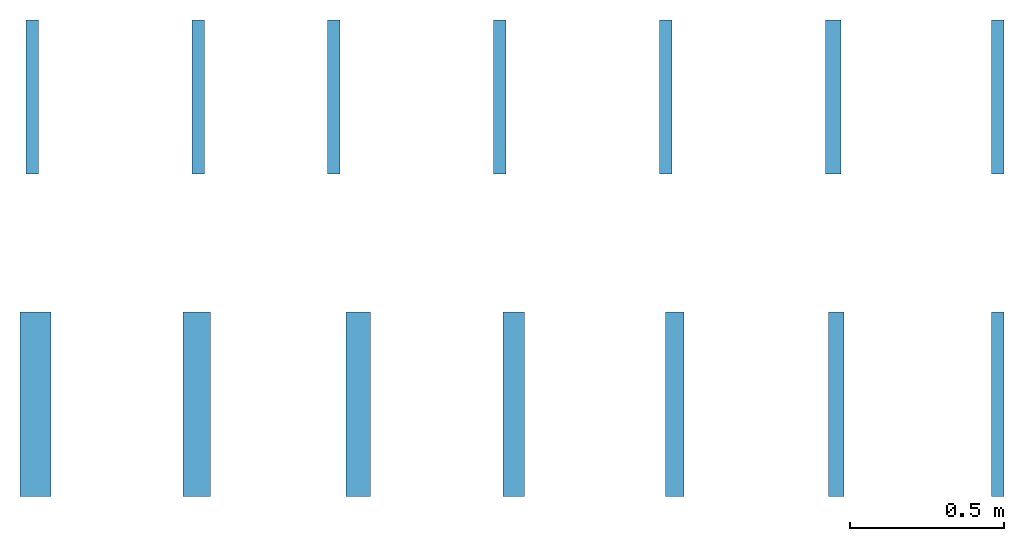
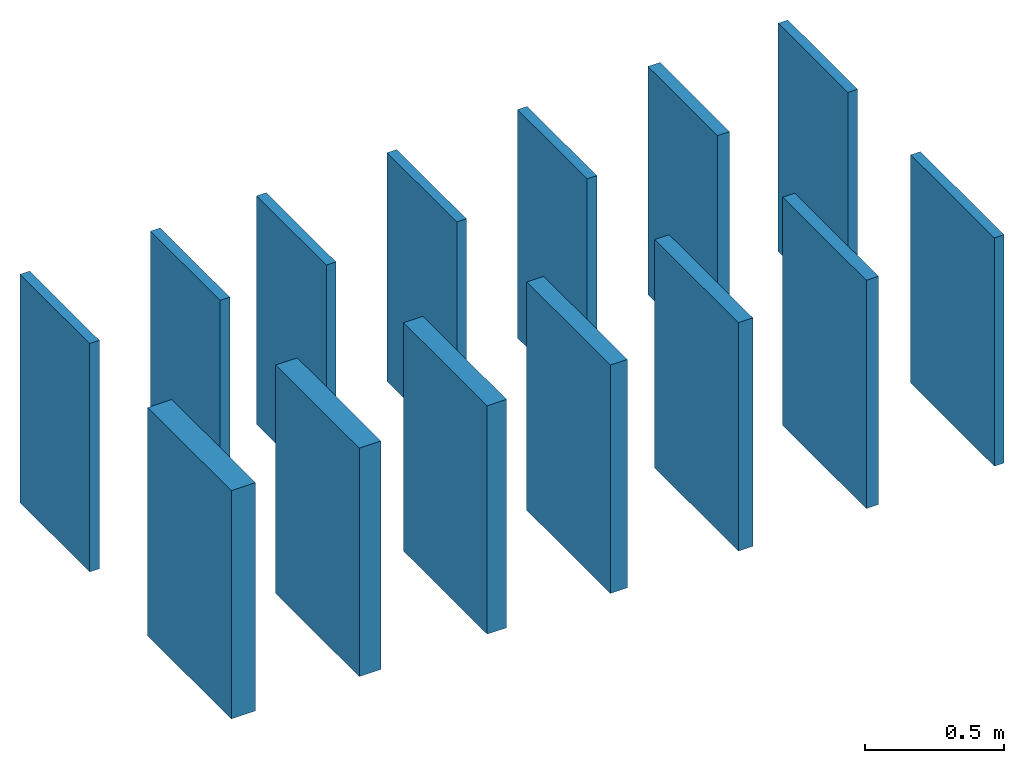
# One storey: 14 walls.
"""IFC2X3 building model written with IfcOpenShell, lengths in metres."""

from ifc_helpers import new_model, entity, si_unit, converted_unit, derived_unit, direction, frame, frame_2d, origin, place, context, subcontext, project, spatial, rectangle, extrude, material, layer, layer_set, layer_usage, type_object, element, save


model = new_model("IFC2X3")

# Units and contexts
model_context = context("Model", 3, precision=1e-05, world=origin(), true_north=direction((6.12303176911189e-17, 1.0)))
body_context = subcontext(model_context, "Body", "Model", "MODEL_VIEW")
ifc_project = project(units=[si_unit("LENGTHUNIT", "METRE"), si_unit("AREAUNIT", "SQUARE_METRE"), si_unit("VOLUMEUNIT", "CUBIC_METRE"), converted_unit("PLANEANGLEUNIT", "DEGREE", entity("IfcRatioMeasure", 0.0174532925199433), si_unit("PLANEANGLEUNIT", "RADIAN"), dimensions=[0, 0, 0, 0, 0, 0, 0]), si_unit("MASSUNIT", "GRAM", prefix="KILO"), derived_unit("MASSDENSITYUNIT", [(si_unit("MASSUNIT", "GRAM", prefix="KILO"), 1), (si_unit("LENGTHUNIT", "METRE"), -3)]), si_unit("TIMEUNIT", "SECOND"), si_unit("FREQUENCYUNIT", "HERTZ"), si_unit("THERMODYNAMICTEMPERATUREUNIT", "DEGREE_CELSIUS"), derived_unit("THERMALTRANSMITTANCEUNIT", [(si_unit("MASSUNIT", "GRAM", prefix="KILO"), 1), (si_unit("THERMODYNAMICTEMPERATUREUNIT", "KELVIN"), -1), (si_unit("TIMEUNIT", "SECOND"), -3)]), derived_unit("VOLUMETRICFLOWRATEUNIT", [(si_unit("LENGTHUNIT", "METRE"), 3), (si_unit("TIMEUNIT", "SECOND"), -1)]), si_unit("ELECTRICCURRENTUNIT", "AMPERE"), si_unit("ELECTRICVOLTAGEUNIT", "VOLT"), si_unit("POWERUNIT", "WATT"), si_unit("FORCEUNIT", "NEWTON", prefix="KILO"), si_unit("ILLUMINANCEUNIT", "LUX"), si_unit("LUMINOUSFLUXUNIT", "LUMEN"), si_unit("LUMINOUSINTENSITYUNIT", "CANDELA"), derived_unit("USERDEFINED", [(si_unit("MASSUNIT", "GRAM", prefix="KILO"), -1), (si_unit("LENGTHUNIT", "METRE"), -2), (si_unit("TIMEUNIT", "SECOND"), 3), (si_unit("LUMINOUSFLUXUNIT", "LUMEN"), 1)]), derived_unit("LINEARVELOCITYUNIT", [(si_unit("LENGTHUNIT", "METRE"), 1), (si_unit("TIMEUNIT", "SECOND"), -1)]), si_unit("PRESSUREUNIT", "PASCAL"), derived_unit("USERDEFINED", [(si_unit("LENGTHUNIT", "METRE"), -2), (si_unit("MASSUNIT", "GRAM", prefix="KILO"), 1), (si_unit("TIMEUNIT", "SECOND"), -2)])], contexts=[model_context])

# Site, building, storey
site_placement = place(None, origin())
site = spatial("IfcSite", under=ifc_project, at=site_placement, Name="Default", CompositionType="ELEMENT")
building_placement = place(site_placement, origin())
building = spatial("IfcBuilding", under=site, at=building_placement, CompositionType="ELEMENT")
storey_placement = place(building_placement, origin())
storey = spatial("IfcBuildingStorey", under=building, at=storey_placement, Name="Nivel 1", CompositionType="ELEMENT", Elevation=0.0)

# Walls
ifc_material = material(Name="VALERO Grafipol® TR-SATE")
ifc_layer_1 = layer(ifc_material, 0.04)
ifc_layer_set_1 = layer_set([ifc_layer_1], Name="Muro básico:Grafipol TR-SATE_1000x500x40mm")
ifc_layer_usage_1 = layer_usage(ifc_layer_set_1, "AXIS2", "NEGATIVE", 0.02)
wall_type_1 = type_object("IfcWallType", Name="Muro básico:Grafipol TR-SATE_1000x500x40mm", PredefinedType="STANDARD", material=ifc_layer_set_1)
wall_1_placement = place(storey_placement, frame((2.61001268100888, 0.176603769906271, 0.0), z_axis=(0.0, 0.0, 1.0), x_axis=(0.0, 1.0, 0.0)))
element("IfcWallStandardCase", 1, at=wall_1_placement, inside=storey, type_object=wall_type_1, material=ifc_layer_usage_1, Name="Muro básico:Grafipol TR-SATE_1000x500x40mm", ObjectType="Muro básico:Grafipol TR-SATE_1000x500x40mm", context=body_context, shape_type="SweptSolid", body=[
    extrude(rectangle(XDim=0.5, YDim=0.0399999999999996, at=frame_2d((0.25, 0.0), x_axis=(-1.0, 0.0))), origin(), (0.0, 0.0, 1.0), 1.0),
])
ifc_layer_usage_2 = layer_usage(ifc_layer_set_1, "AXIS2", "NEGATIVE", 0.02)
wall_2_placement = place(storey_placement, frame((1.53001268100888, 0.176603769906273, 0.0), z_axis=(0.0, 0.0, 1.0), x_axis=(0.0, 1.0, 0.0)))
element("IfcWallStandardCase", 2, at=wall_2_placement, inside=storey, type_object=wall_type_1, material=ifc_layer_usage_2, Name="Muro básico:Grafipol TR-SATE_1000x500x40mm", ObjectType="Muro básico:Grafipol TR-SATE_1000x500x40mm", context=body_context, shape_type="SweptSolid", body=[
    extrude(rectangle(XDim=0.5, YDim=0.0400000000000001, at=frame_2d((0.25, 0.0), x_axis=(-1.0, 0.0))), origin(), (0.0, 0.0, 1.0), 1.0),
])
ifc_layer_usage_3 = layer_usage(ifc_layer_set_1, "AXIS2", "NEGATIVE", 0.02)
wall_3_placement = place(storey_placement, frame((0.990012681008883, 0.176603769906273, 0.0), z_axis=(0.0, 0.0, 1.0), x_axis=(0.0, 1.0, 0.0)))
element("IfcWallStandardCase", 3, at=wall_3_placement, inside=storey, type_object=wall_type_1, material=ifc_layer_usage_3, Name="Muro básico:Grafipol TR-SATE_1000x500x40mm", ObjectType="Muro básico:Grafipol TR-SATE_1000x500x40mm", context=body_context, shape_type="SweptSolid", body=[
    extrude(rectangle(XDim=0.5, YDim=0.0400000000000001, at=frame_2d((0.25, 0.0), x_axis=(-1.0, 0.0))), origin(), (0.0, 0.0, 1.0), 1.0),
])
ifc_layer_usage_4 = layer_usage(ifc_layer_set_1, "AXIS2", "NEGATIVE", 0.02)
wall_4_placement = place(storey_placement, frame((0.450012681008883, 0.176603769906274, 0.0), z_axis=(0.0, 0.0, 1.0), x_axis=(0.0, 1.0, 0.0)))
element("IfcWallStandardCase", 4, at=wall_4_placement, inside=storey, type_object=wall_type_1, material=ifc_layer_usage_4, Name="Muro básico:Grafipol TR-SATE_1000x500x40mm", ObjectType="Muro básico:Grafipol TR-SATE_1000x500x40mm", context=body_context, shape_type="SweptSolid", body=[
    extrude(rectangle(XDim=0.5, YDim=0.04, at=frame_2d((0.25, 0.0), x_axis=(-1.0, 0.0))), origin(), (0.0, 0.0, 1.0), 1.0),
])
ifc_layer_usage_5 = layer_usage(ifc_layer_set_1, "AXIS2", "NEGATIVE", 0.02)
wall_5_placement = place(storey_placement, frame((0.0100126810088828, 0.176603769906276, 0.0), z_axis=(0.0, 0.0, 1.0), x_axis=(0.0, 1.0, 0.0)))
element("IfcWallStandardCase", 5, at=wall_5_placement, inside=storey, type_object=wall_type_1, material=ifc_layer_usage_5, Name="Muro básico:Grafipol TR-SATE_1000x500x40mm", ObjectType="Muro básico:Grafipol TR-SATE_1000x500x40mm", context=body_context, shape_type="SweptSolid", body=[
    extrude(rectangle(XDim=0.5, YDim=0.04, at=frame_2d((0.25, 0.0), x_axis=(-1.0, 0.0))), origin(), (0.0, 0.0, 1.0), 1.0),
])
ifc_layer_usage_6 = layer_usage(ifc_layer_set_1, "AXIS2", "NEGATIVE", 0.02)
wall_6_placement = place(storey_placement, frame((-0.529987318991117, 0.176603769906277, 0.0), z_axis=(0.0, 0.0, 1.0), x_axis=(0.0, 1.0, 0.0)))
element("IfcWallStandardCase", 6, at=wall_6_placement, inside=storey, type_object=wall_type_1, material=ifc_layer_usage_6, Name="Muro básico:Grafipol TR-SATE_1000x500x40mm", ObjectType="Muro básico:Grafipol TR-SATE_1000x500x40mm", context=body_context, shape_type="SweptSolid", body=[
    extrude(rectangle(XDim=0.5, YDim=0.04, at=frame_2d((0.25, 0.0), x_axis=(-1.0, 0.0))), origin(), (0.0, 0.0, 1.0), 1.0),
])
ifc_layer_2 = layer(ifc_material, 0.05)
ifc_layer_set_2 = layer_set([ifc_layer_2], Name="Muro básico:Grafipol TR-SATE_1000x500x50mm")
ifc_layer_usage_7 = layer_usage(ifc_layer_set_2, "AXIS2", "NEGATIVE", 0.025)
wall_type_2 = type_object("IfcWallType", Name="Muro básico:Grafipol TR-SATE_1000x500x50mm", PredefinedType="STANDARD", material=ifc_layer_set_2)
wall_7_placement = place(storey_placement, frame((2.07501268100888, 0.176603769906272, 0.0), z_axis=(0.0, 0.0, 1.0), x_axis=(0.0, 1.0, 0.0)))
element("IfcWallStandardCase", 7, at=wall_7_placement, inside=storey, type_object=wall_type_2, material=ifc_layer_usage_7, Name="Muro básico:Grafipol TR-SATE_1000x500x50mm", ObjectType="Muro básico:Grafipol TR-SATE_1000x500x50mm", context=body_context, shape_type="SweptSolid", body=[
    extrude(rectangle(XDim=0.5, YDim=0.05, at=frame_2d((0.25, 0.0), x_axis=(-1.0, 0.0))), origin(), (0.0, 0.0, 1.0), 1.0),
])
ifc_layer_3 = layer(ifc_material, 0.04)
ifc_layer_set_3 = layer_set([ifc_layer_3], Name="Muro básico:Grafipol TR-SATE_1000x600x40mm")
ifc_layer_usage_8 = layer_usage(ifc_layer_set_3, "AXIS2", "NEGATIVE", 0.02)
wall_type_3 = type_object("IfcWallType", Name="Muro básico:Grafipol TR-SATE_1000x600x40mm", PredefinedType="STANDARD", material=ifc_layer_set_3)
wall_8_placement = place(storey_placement, frame((2.61001268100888, -0.873396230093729, 0.0), z_axis=(0.0, 0.0, 1.0), x_axis=(0.0, 1.0, 0.0)))
element("IfcWallStandardCase", 8, at=wall_8_placement, inside=storey, type_object=wall_type_3, material=ifc_layer_usage_8, Name="Muro básico:Grafipol TR-SATE_1000x600x40mm", ObjectType="Muro básico:Grafipol TR-SATE_1000x600x40mm", context=body_context, shape_type="SweptSolid", body=[
    extrude(rectangle(XDim=0.6, YDim=0.0399999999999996, at=frame_2d((0.3, 5.55111512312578e-17), x_axis=(-1.0, 0.0))), origin(), (0.0, 0.0, 1.0), 1.0),
])
ifc_layer_4 = layer(ifc_material, 0.05)
ifc_layer_set_4 = layer_set([ifc_layer_4], Name="Muro básico:Grafipol TR-SATE_1000x600x50mm")
ifc_layer_usage_9 = layer_usage(ifc_layer_set_4, "AXIS2", "NEGATIVE", 0.025)
wall_type_4 = type_object("IfcWallType", Name="Muro básico:Grafipol TR-SATE_1000x600x50mm", PredefinedType="STANDARD", material=ifc_layer_set_4)
wall_9_placement = place(storey_placement, frame((2.08501268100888, -0.873396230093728, 0.0), z_axis=(0.0, 0.0, 1.0), x_axis=(0.0, 1.0, 0.0)))
element("IfcWallStandardCase", 9, at=wall_9_placement, inside=storey, type_object=wall_type_4, material=ifc_layer_usage_9, Name="Muro básico:Grafipol TR-SATE_1000x600x50mm", ObjectType="Muro básico:Grafipol TR-SATE_1000x600x50mm", context=body_context, shape_type="SweptSolid", body=[
    extrude(rectangle(XDim=0.6, YDim=0.05, at=frame_2d((0.3, -7.97972798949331e-17), x_axis=(-1.0, 0.0))), origin(), (0.0, 0.0, 1.0), 1.0),
])
ifc_layer_5 = layer(ifc_material, 0.06)
ifc_layer_set_5 = layer_set([ifc_layer_5], Name="Muro básico:Grafipol TR-SATE_1000x600x60mm")
ifc_layer_usage_10 = layer_usage(ifc_layer_set_5, "AXIS2", "NEGATIVE", 0.03)
wall_type_5 = type_object("IfcWallType", Name="Muro básico:Grafipol TR-SATE_1000x600x60mm", PredefinedType="STANDARD", material=ifc_layer_set_5)
wall_10_placement = place(storey_placement, frame((1.56001268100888, -0.873396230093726, 0.0), z_axis=(0.0, 0.0, 1.0), x_axis=(0.0, 1.0, 0.0)))
element("IfcWallStandardCase", 10, at=wall_10_placement, inside=storey, type_object=wall_type_5, material=ifc_layer_usage_10, Name="Muro básico:Grafipol TR-SATE_1000x600x60mm", ObjectType="Muro básico:Grafipol TR-SATE_1000x600x60mm", context=body_context, shape_type="SweptSolid", body=[
    extrude(rectangle(XDim=0.6, YDim=0.0599999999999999, at=frame_2d((0.3, -7.97972798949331e-17), x_axis=(-1.0, 0.0))), origin(), (0.0, 0.0, 1.0), 1.0),
])
ifc_layer_6 = layer(ifc_material, 0.07)
ifc_layer_set_6 = layer_set([ifc_layer_6], Name="Muro básico:Grafipol TR-SATE_1000x600x70mm")
ifc_layer_usage_11 = layer_usage(ifc_layer_set_6, "AXIS2", "NEGATIVE", 0.035)
wall_type_6 = type_object("IfcWallType", Name="Muro básico:Grafipol TR-SATE_1000x600x70mm", PredefinedType="STANDARD", material=ifc_layer_set_6)
wall_11_placement = place(storey_placement, frame((1.03501268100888, -0.873396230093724, 0.0), z_axis=(0.0, 0.0, 1.0), x_axis=(0.0, 1.0, 0.0)))
element("IfcWallStandardCase", 11, at=wall_11_placement, inside=storey, type_object=wall_type_6, material=ifc_layer_usage_11, Name="Muro básico:Grafipol TR-SATE_1000x600x70mm", ObjectType="Muro básico:Grafipol TR-SATE_1000x600x70mm", context=body_context, shape_type="SweptSolid", body=[
    extrude(rectangle(XDim=0.6, YDim=0.0700000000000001, at=frame_2d((0.3, 5.55111512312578e-17), x_axis=(-1.0, 0.0))), origin(), (0.0, 0.0, 1.0), 1.0),
])
ifc_layer_7 = layer(ifc_material, 0.08)
ifc_layer_set_7 = layer_set([ifc_layer_7], Name="Muro básico:Grafipol TR-SATE_1000x600x80mm")
ifc_layer_usage_12 = layer_usage(ifc_layer_set_7, "AXIS2", "NEGATIVE", 0.04)
wall_type_7 = type_object("IfcWallType", Name="Muro básico:Grafipol TR-SATE_1000x600x80mm", PredefinedType="STANDARD", material=ifc_layer_set_7)
wall_12_placement = place(storey_placement, frame((0.530012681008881, -0.873396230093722, 0.0), z_axis=(0.0, 0.0, 1.0), x_axis=(0.0, 1.0, 0.0)))
element("IfcWallStandardCase", 12, at=wall_12_placement, inside=storey, type_object=wall_type_7, material=ifc_layer_usage_12, Name="Muro básico:Grafipol TR-SATE_1000x600x80mm", ObjectType="Muro básico:Grafipol TR-SATE_1000x600x80mm", context=body_context, shape_type="SweptSolid", body=[
    extrude(rectangle(XDim=0.6, YDim=0.08, at=frame_2d((0.3, -1.04083408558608e-17), x_axis=(-1.0, 0.0))), origin(), (0.0, 0.0, 1.0), 1.0),
])
ifc_layer_8 = layer(ifc_material, 0.09)
ifc_layer_set_8 = layer_set([ifc_layer_8], Name="Muro básico:Grafipol TR-SATE_1000x600x90mm")
ifc_layer_usage_13 = layer_usage(ifc_layer_set_8, "AXIS2", "NEGATIVE", 0.045)
wall_type_8 = type_object("IfcWallType", Name="Muro básico:Grafipol TR-SATE_1000x600x90mm", PredefinedType="STANDARD", material=ifc_layer_set_8)
wall_13_placement = place(storey_placement, frame((0.00501268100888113, -0.873396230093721, 0.0), z_axis=(0.0, 0.0, 1.0), x_axis=(0.0, 1.0, 0.0)))
element("IfcWallStandardCase", 13, at=wall_13_placement, inside=storey, type_object=wall_type_8, material=ifc_layer_usage_13, Name="Muro básico:Grafipol TR-SATE_1000x600x90mm", ObjectType="Muro básico:Grafipol TR-SATE_1000x600x90mm", context=body_context, shape_type="SweptSolid", body=[
    extrude(rectangle(XDim=0.6, YDim=0.09, at=frame_2d((0.3, 6.93889390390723e-18), x_axis=(-1.0, 0.0))), origin(), (0.0, 0.0, 1.0), 1.0),
])
ifc_layer_9 = layer(ifc_material, 0.1)
ifc_layer_set_9 = layer_set([ifc_layer_9], Name="Muro básico:Grafipol TR-SATE_1000x600x100mm")
ifc_layer_usage_14 = layer_usage(ifc_layer_set_9, "AXIS2", "NEGATIVE", 0.05)
wall_type_9 = type_object("IfcWallType", Name="Muro básico:Grafipol TR-SATE_1000x600x100mm", PredefinedType="STANDARD", material=ifc_layer_set_9)
wall_14_placement = place(storey_placement, frame((-0.519987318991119, -0.873396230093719, 0.0), z_axis=(0.0, 0.0, 1.0), x_axis=(0.0, 1.0, 0.0)))
element("IfcWallStandardCase", 14, at=wall_14_placement, inside=storey, type_object=wall_type_9, material=ifc_layer_usage_14, Name="Muro básico:Grafipol TR-SATE_1000x600x100mm", ObjectType="Muro básico:Grafipol TR-SATE_1000x600x100mm", context=body_context, shape_type="SweptSolid", body=[
    extrude(rectangle(XDim=0.6, YDim=0.1, at=frame_2d((0.3, -1.04083408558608e-17), x_axis=(-1.0, 0.0))), origin(), (0.0, 0.0, 1.0), 1.0),
])

save(model, "model.ifc")
